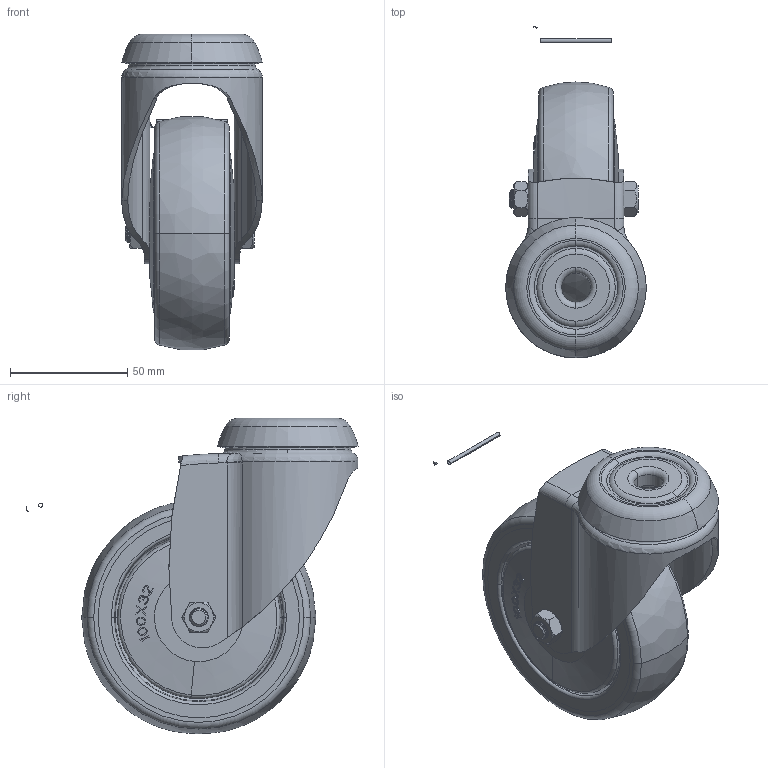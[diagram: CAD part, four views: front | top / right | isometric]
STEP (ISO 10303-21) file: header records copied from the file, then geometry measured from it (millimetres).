
FILE_DESCRIPTION((''),'2;1');
FILE_NAME('100-TEMTE-HONG-DONG-ZT_ASM','2007-02-22T',('Administrator'),(''),'PRO/ENGINEER BY PARAMETRIC TECHNOLOGY CORPORATION, 2006010','PRO/ENGINEER BY PARAMETRIC TECHNOLOGY CORPORATION, 2006010','');
FILE_SCHEMA(('CONFIG_CONTROL_DESIGN'));
Length unit declared in the file: millimetre
Products named in the file (13): 100-TENTE-HUODONG-ZJ; 6BJ; 150X32DBP; 150X32SBP-DS; 5BJ; 100-TENTE-NEIXIN; 100-TENTE-ZHOUCHANG; 100-TENTE-BAOJAO; 100-TENTE-ZHUANGXIGUAI; 100-TEMTE-DANLEN_ASM; M8X60LS; M8LM; 100-TEMTE-HONG-DONG-ZT_ASM
Assembly tree (13 placements, depth 3):
  100-TEMTE-HONG-DONG-ZT_ASM
    100-TENTE-HUODONG-ZJ
    6BJ
    150X32DBP
    150X32SBP-DS
    5BJ
    100-TEMTE-DANLEN_ASM
      100-TENTE-NEIXIN
      100-TENTE-ZHOUCHANG
      100-TENTE-BAOJAO
      100-TENTE-ZHUANGXIGUAI  x2
    M8X60LS
    M8LM
Bounding box: 60 x 141.82 x 134.74 mm (x, y, z)
Volume: 225151.3 mm3; surface area: 129812.4 mm2
Topology: 45 solids, 50 shells, 980 faces, 2609 edges, 1622 vertices
Faces by surface type: plane 517, cylinder 151, cone 104, torus 102, sphere 68, bspline 38
Entity records: 28977 total; most frequent: CARTESIAN_POINT 12083, ORIENTED_EDGE 3623, DIRECTION 3187, EDGE_CURVE 1822, AXIS2_PLACEMENT_3D 1317, VERTEX_POINT 1196, EDGE_LOOP 791, FACE_OUTER_BOUND 743
